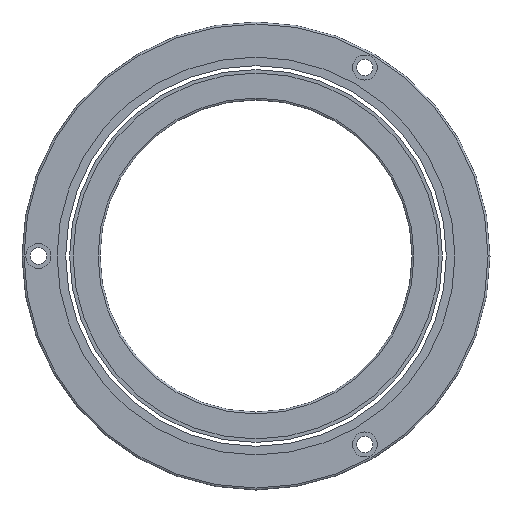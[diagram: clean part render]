
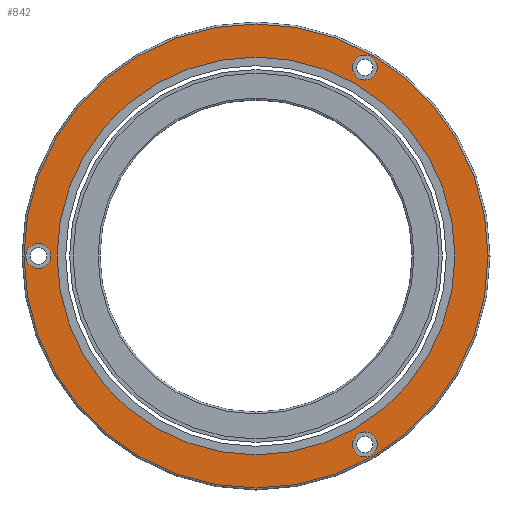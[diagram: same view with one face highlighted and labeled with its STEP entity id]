
A CAD part, front view. The second image highlights one B-rep face of the part: STEP entity #842.
In plain terms, the highlighted planar face has unit normal (0, -1, 0).
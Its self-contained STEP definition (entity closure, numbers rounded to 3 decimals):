
#61=CARTESIAN_POINT('',(0.,0.,0.));
#62=DIRECTION('',(0.,-1.,0.));
#63=DIRECTION('',(-1.,0.,0.));
#64=AXIS2_PLACEMENT_3D('',#61,#62,#63);
#66=CARTESIAN_POINT('',(0.,0.,0.));
#67=DIRECTION('',(0.,1.,0.));
#68=DIRECTION('',(-1.,0.,0.));
#69=AXIS2_PLACEMENT_3D('',#66,#67,#68);
#71=CARTESIAN_POINT('',(-55.8,0.,0.));
#72=DIRECTION('',(0.,1.,0.));
#73=DIRECTION('',(1.,0.,0.));
#74=AXIS2_PLACEMENT_3D('',#71,#72,#73);
#76=CARTESIAN_POINT('',(-55.8,0.,0.));
#77=DIRECTION('',(0.,1.,0.));
#78=DIRECTION('',(-1.,0.,0.));
#79=AXIS2_PLACEMENT_3D('',#76,#77,#78);
#81=CARTESIAN_POINT('',(27.9,0.,48.324));
#82=DIRECTION('',(0.,1.,0.));
#83=DIRECTION('',(-0.5,0.,-0.866));
#84=AXIS2_PLACEMENT_3D('',#81,#82,#83);
#86=CARTESIAN_POINT('',(27.9,0.,48.324));
#87=DIRECTION('',(0.,1.,0.));
#88=DIRECTION('',(0.5,0.,0.866));
#89=AXIS2_PLACEMENT_3D('',#86,#87,#88);
#91=CARTESIAN_POINT('',(27.9,0.,-48.324));
#92=DIRECTION('',(0.,1.,0.));
#93=DIRECTION('',(-0.5,0.,0.866));
#94=AXIS2_PLACEMENT_3D('',#91,#92,#93);
#96=CARTESIAN_POINT('',(27.9,0.,-48.324));
#97=DIRECTION('',(0.,1.,0.));
#98=DIRECTION('',(0.5,0.,-0.866));
#99=AXIS2_PLACEMENT_3D('',#96,#97,#98);
#101=CARTESIAN_POINT('',(0.,0.,0.));
#102=DIRECTION('',(0.,1.,0.));
#103=DIRECTION('',(-1.,0.,0.));
#104=AXIS2_PLACEMENT_3D('',#101,#102,#103);
#106=CARTESIAN_POINT('',(0.,0.,0.));
#107=DIRECTION('',(0.,1.,0.));
#108=DIRECTION('',(1.,0.,0.));
#109=AXIS2_PLACEMENT_3D('',#106,#107,#108);
#667=CARTESIAN_POINT('',(-52.6,0.,0.));
#668=VERTEX_POINT('',#667);
#669=CARTESIAN_POINT('',(-59.,0.,0.));
#670=VERTEX_POINT('',#669);
#679=CARTESIAN_POINT('',(26.3,0.,45.553));
#680=VERTEX_POINT('',#679);
#681=CARTESIAN_POINT('',(29.5,0.,51.095));
#682=VERTEX_POINT('',#681);
#691=CARTESIAN_POINT('',(26.3,0.,-45.553));
#692=VERTEX_POINT('',#691);
#693=CARTESIAN_POINT('',(29.5,0.,-51.095));
#694=VERTEX_POINT('',#693);
#712=CARTESIAN_POINT('',(-51.,0.,0.));
#714=VERTEX_POINT('',#712);
#716=CARTESIAN_POINT('',(51.,0.,0.));
#718=VERTEX_POINT('',#716);
#731=CARTESIAN_POINT('',(-59.5,0.,0.));
#732=CARTESIAN_POINT('',(59.5,0.,0.));
#733=VERTEX_POINT('',#731);
#734=VERTEX_POINT('',#732);
#809=CARTESIAN_POINT('',(0.,0.,0.));
#810=DIRECTION('',(0.,1.,0.));
#811=DIRECTION('',(1.,0.,0.));
#812=AXIS2_PLACEMENT_3D('',#809,#810,#811);
#813=PLANE('',#812);
#815=ORIENTED_EDGE('',*,*,#814,.T.);
#817=ORIENTED_EDGE('',*,*,#816,.T.);
#818=EDGE_LOOP('',(#815,#817));
#819=FACE_OUTER_BOUND('',#818,.F.);
#821=ORIENTED_EDGE('',*,*,#820,.F.);
#823=ORIENTED_EDGE('',*,*,#822,.F.);
#824=EDGE_LOOP('',(#821,#823));
#825=FACE_BOUND('',#824,.F.);
#827=ORIENTED_EDGE('',*,*,#826,.F.);
#829=ORIENTED_EDGE('',*,*,#828,.F.);
#830=EDGE_LOOP('',(#827,#829));
#831=FACE_BOUND('',#830,.F.);
#833=ORIENTED_EDGE('',*,*,#832,.F.);
#835=ORIENTED_EDGE('',*,*,#834,.F.);
#836=EDGE_LOOP('',(#833,#835));
#837=FACE_BOUND('',#836,.F.);
#838=ORIENTED_EDGE('',*,*,#804,.T.);
#839=ORIENTED_EDGE('',*,*,#788,.F.);
#840=EDGE_LOOP('',(#838,#839));
#841=FACE_BOUND('',#840,.F.);
#65=CIRCLE('',#64,51.);
#70=CIRCLE('',#69,51.);
#75=CIRCLE('',#74,3.2);
#80=CIRCLE('',#79,3.2);
#85=CIRCLE('',#84,3.2);
#90=CIRCLE('',#89,3.2);
#95=CIRCLE('',#94,3.2);
#100=CIRCLE('',#99,3.2);
#105=CIRCLE('',#104,59.5);
#110=CIRCLE('',#109,59.5);
#788=EDGE_CURVE('',#714,#718,#70,.T.);
#804=EDGE_CURVE('',#714,#718,#65,.T.);
#814=EDGE_CURVE('',#733,#734,#105,.T.);
#816=EDGE_CURVE('',#734,#733,#110,.T.);
#820=EDGE_CURVE('',#668,#670,#75,.T.);
#822=EDGE_CURVE('',#670,#668,#80,.T.);
#826=EDGE_CURVE('',#680,#682,#85,.T.);
#828=EDGE_CURVE('',#682,#680,#90,.T.);
#832=EDGE_CURVE('',#692,#694,#95,.T.);
#834=EDGE_CURVE('',#694,#692,#100,.T.);
#842=ADVANCED_FACE('',(#819,#825,#831,#837,#841),#813,.F.);
